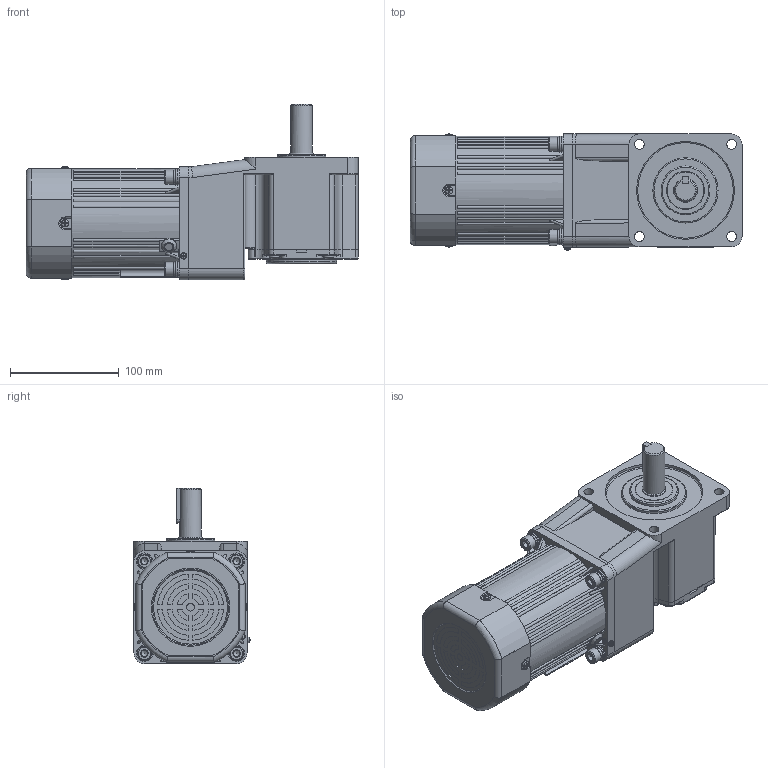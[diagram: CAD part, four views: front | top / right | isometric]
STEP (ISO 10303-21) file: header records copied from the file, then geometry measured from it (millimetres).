
FILE_DESCRIPTION(/* description */ (''),/* implementation_level */ '2;1');
FILE_NAME(/* name */ '100+直角中实-调速风叶-120-140W 新版.stp',/* time_stamp */ '2025-03-25T15:07:41+08:00',/* author */ (''),/* organization */ (''),/* preprocessor_version */ 'ST-DEVELOPER v18.102',/* originating_system */ 'SIEMENS PLM Software NX 2027',/* authorisation */ '');
FILE_SCHEMA (('AP203_CONFIGURATION_CONTROLLED_3D_DESIGN_OF_MECHANICAL_PARTS_AND_ASSEMBLIES_MIM_LF { 1 0 10303 403 2 1 2}'));
Length unit declared in the file: millimetre
Products named in the file (1): 6RK120-140CC·RF_6GU3-750K-C·15L_stp_M066166857A1n
ljw
Bounding box: 305.5 x 106.83 x 161.53 mm (x, y, z)
Volume: 2951925.2 mm3; surface area: 381329.3 mm2
Topology: 25 solids, 25 shells, 1782 faces, 4616 edges, 2988 vertices
Faces by surface type: plane 753, cylinder 560, bspline 215, cone 116, torus 114, sphere 24
Full cylindrical faces by diameter (mm): 2.5 x2, 2.6 x2, 2.7 x1, 3 x15, 3.2 x2, 3.5 x4, 3.6 x4, 4 x4, 4.55 x2, 5.1 x2, 5.15 x2, 6 x10, 6.8 x12, 7 x2, 7.5 x1, 7.76 x4, 8.4 x4, 9 x13, 9.3 x1, 9.5 x4, 13 x4, 14 x8, 15 x5, 15.5 x2, 19 x2, 20 x1, 21 x1, 22 x1, 28 x1, 30 x3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
Entity records: 54458 total; most frequent: CARTESIAN_POINT 13448, ORIENTED_EDGE 8324, DIRECTION 8070, EDGE_CURVE 4162, AXIS2_PLACEMENT_3D 3208, VERTEX_POINT 2830, EDGE_LOOP 2251, ADVANCED_FACE 1781
